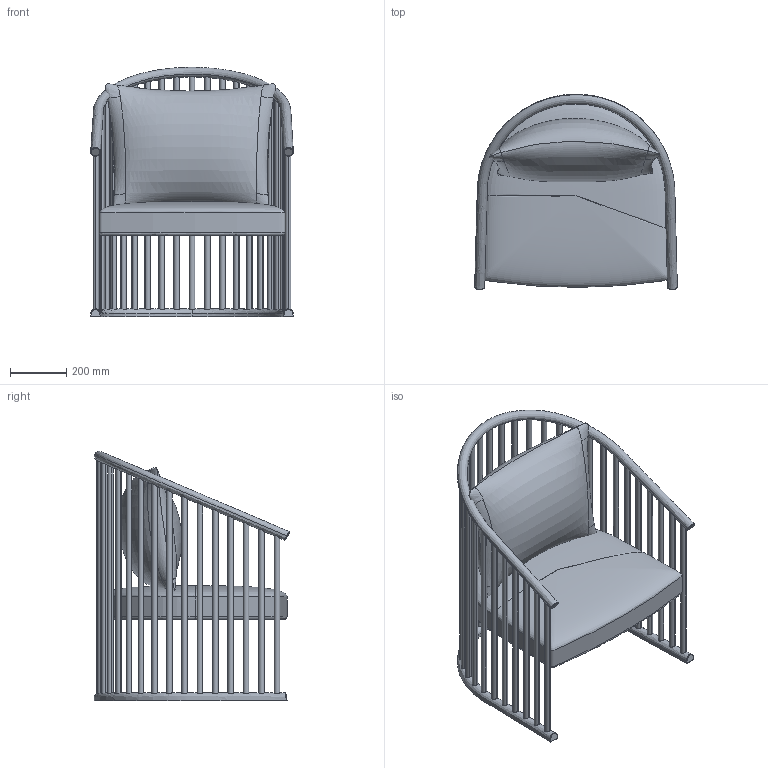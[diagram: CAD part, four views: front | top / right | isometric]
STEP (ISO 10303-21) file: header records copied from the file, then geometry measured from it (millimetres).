
FILE_DESCRIPTION(/* description */ (''),/* implementation_level */ '2;1');
FILE_NAME(/* name */ 'KINOSH~1',/* time_stamp */ '2019-07-19T19:15:55+09:00',/* author */ (''),/* organization */ (''),/* preprocessor_version */ 'ST-DEVELOPER v15',/* originating_system */ '',/* authorisation */ '');
FILE_SCHEMA (('AUTOMOTIVE_DESIGN'));
Length unit declared in the file: millimetre
Products named in the file (1): Document
Bounding box: 722.41 x 696.88 x 889.1 mm (x, y, z)
Volume: 82740471 mm3; surface area: 3489012.3 mm2
Topology: 35 solids, 35 shells, 358 faces, 670 edges, 433 vertices
Faces by surface type: bspline 228, plane 130
Entity records: 44248 total; most frequent: CARTESIAN_POINT 39956, ORIENTED_EDGE 1320, EDGE_CURVE 660, VERTEX_POINT 433, EDGE_LOOP 419, ADVANCED_FACE 358, FACE_OUTER_BOUND 358, B_SPLINE_CURVE_WITH_KNOTS 148
